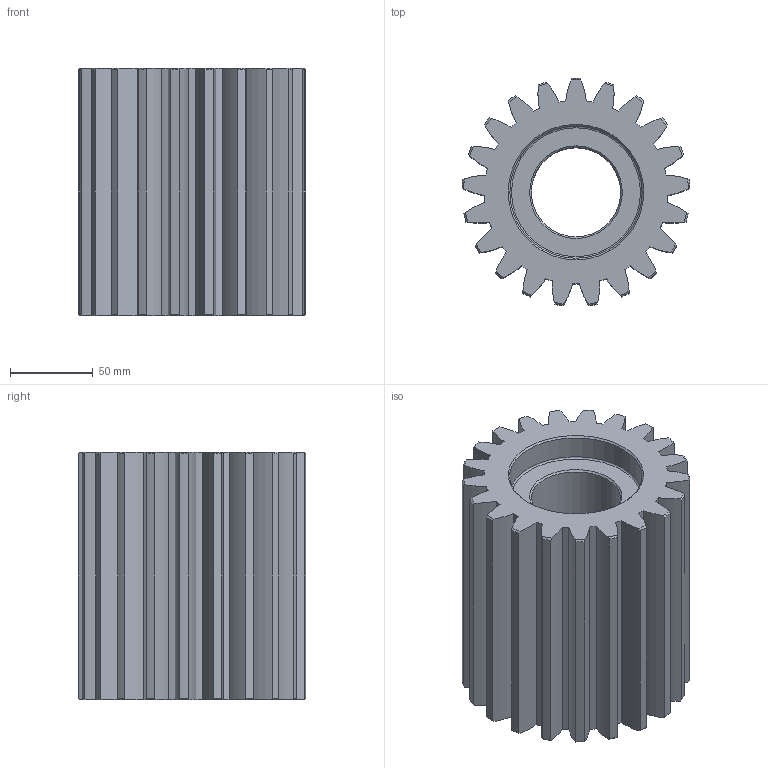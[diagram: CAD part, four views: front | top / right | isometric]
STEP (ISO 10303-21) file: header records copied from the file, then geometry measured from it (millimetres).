
FILE_DESCRIPTION(/* description */ (''),/* implementation_level */ '2;1');
FILE_NAME(/* name */ 'C:\Users\jbart\OneDrive\Plocha\Nová složka\3D modely - stp\Satelit A.stp',/* time_stamp */ '2025-05-15T16:51:15+02:00',/* author */ ('jbart'),/* organization */ (''),/* preprocessor_version */ 'ST-DEVELOPER v18.1',/* originating_system */ 'Autodesk Inventor 2022',/* authorisation */ '');
FILE_SCHEMA (('AUTOMOTIVE_DESIGN { 1 0 10303 214 3 1 1 }'));
Length unit declared in the file: millimetre
Products named in the file (3): Satelit A; Čelní ozubená kola; Čelní ozubené kolo1
Assembly tree (2 placements, depth 3):
  Satelit A
    Čelní ozubená kola
      Čelní ozubené kolo1
Bounding box: 137.9 x 137.55 x 150 mm (x, y, z)
Volume: 1423687.1 mm3; surface area: 166860.4 mm2
Topology: 1 solids, 1 shells, 139 faces, 404 edges, 269 vertices
Faces by surface type: cylinder 87, cone 46, plane 4, torus 2
Full cylindrical faces by diameter (mm): 54 x1, 80 x2
Entity records: 4916 total; most frequent: CARTESIAN_POINT 1070, DIRECTION 839, ORIENTED_EDGE 808, EDGE_CURVE 404, AXIS2_PLACEMENT_3D 374, VERTEX_POINT 269, CIRCLE 229, EDGE_LOOP 143
